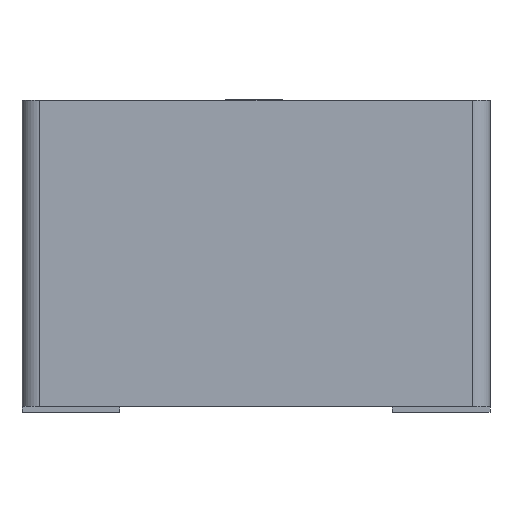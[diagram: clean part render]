
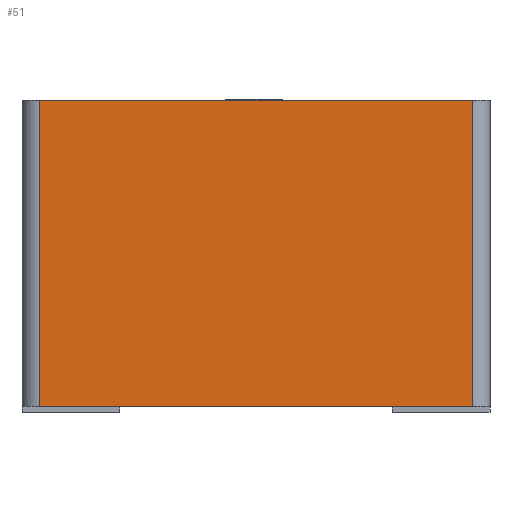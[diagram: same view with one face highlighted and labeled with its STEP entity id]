
A CAD part, left-side view. The second image highlights one B-rep face of the part: STEP entity #51.
In plain terms, the highlighted planar face has unit normal (-1, 0, 0).
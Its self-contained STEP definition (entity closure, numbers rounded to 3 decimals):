
#51 = ADVANCED_FACE('',(#52),#66,.F.);
#52 = FACE_BOUND('',#53,.F.);
#53 = EDGE_LOOP('',(#54,#89,#117,#145));
#54 = ORIENTED_EDGE('',*,*,#55,.F.);
#55 = EDGE_CURVE('',#56,#58,#60,.T.);
#56 = VERTEX_POINT('',#57);
#57 = CARTESIAN_POINT('',(-6.,-5.55,8.));
#58 = VERTEX_POINT('',#59);
#59 = CARTESIAN_POINT('',(-6.,5.55,8.));
#60 = SURFACE_CURVE('',#61,(#65,#77),.PCURVE_S1.);
#61 = LINE('',#62,#63);
#62 = CARTESIAN_POINT('',(-6.,-6.,8.));
#63 = VECTOR('',#64,1.);
#64 = DIRECTION('',(0.,1.,0.));
#65 = PCURVE('',#66,#71);
#66 = PLANE('',#67);
#67 = AXIS2_PLACEMENT_3D('',#68,#69,#70);
#68 = CARTESIAN_POINT('',(-6.,-6.,0.15));
#69 = DIRECTION('',(1.,0.,0.));
#70 = DIRECTION('',(0.,0.,1.));
#71 = DEFINITIONAL_REPRESENTATION('',(#72),#76);
#72 = LINE('',#73,#74);
#73 = CARTESIAN_POINT('',(7.85,0.));
#74 = VECTOR('',#75,1.);
#75 = DIRECTION('',(0.,-1.));
#76 = ( GEOMETRIC_REPRESENTATION_CONTEXT(2) 
PARAMETRIC_REPRESENTATION_CONTEXT() REPRESENTATION_CONTEXT('2D SPACE',''
  ) );
#77 = PCURVE('',#78,#83);
#78 = PLANE('',#79);
#79 = AXIS2_PLACEMENT_3D('',#80,#81,#82);
#80 = CARTESIAN_POINT('',(-6.,-6.,8.));
#81 = DIRECTION('',(0.,0.,1.));
#82 = DIRECTION('',(1.,0.,0.));
#83 = DEFINITIONAL_REPRESENTATION('',(#84),#88);
#84 = LINE('',#85,#86);
#85 = CARTESIAN_POINT('',(0.,0.));
#86 = VECTOR('',#87,1.);
#87 = DIRECTION('',(0.,1.));
#88 = ( GEOMETRIC_REPRESENTATION_CONTEXT(2) 
PARAMETRIC_REPRESENTATION_CONTEXT() REPRESENTATION_CONTEXT('2D SPACE',''
  ) );
#89 = ORIENTED_EDGE('',*,*,#90,.F.);
#90 = EDGE_CURVE('',#91,#56,#93,.T.);
#91 = VERTEX_POINT('',#92);
#92 = CARTESIAN_POINT('',(-6.,-5.55,0.15));
#93 = SURFACE_CURVE('',#94,(#98,#105),.PCURVE_S1.);
#94 = LINE('',#95,#96);
#95 = CARTESIAN_POINT('',(-6.,-5.55,0.15));
#96 = VECTOR('',#97,1.);
#97 = DIRECTION('',(0.,0.,1.));
#98 = PCURVE('',#66,#99);
#99 = DEFINITIONAL_REPRESENTATION('',(#100),#104);
#100 = LINE('',#101,#102);
#101 = CARTESIAN_POINT('',(0.,-0.45));
#102 = VECTOR('',#103,1.);
#103 = DIRECTION('',(1.,0.));
#104 = ( GEOMETRIC_REPRESENTATION_CONTEXT(2) 
PARAMETRIC_REPRESENTATION_CONTEXT() REPRESENTATION_CONTEXT('2D SPACE',''
  ) );
#105 = PCURVE('',#106,#111);
#106 = CYLINDRICAL_SURFACE('',#107,0.45);
#107 = AXIS2_PLACEMENT_3D('',#108,#109,#110);
#108 = CARTESIAN_POINT('',(-5.55,-5.55,0.15));
#109 = DIRECTION('',(0.,0.,1.));
#110 = DIRECTION('',(-1.,-0.,0.));
#111 = DEFINITIONAL_REPRESENTATION('',(#112),#116);
#112 = LINE('',#113,#114);
#113 = CARTESIAN_POINT('',(0.,0.));
#114 = VECTOR('',#115,1.);
#115 = DIRECTION('',(0.,1.));
#116 = ( GEOMETRIC_REPRESENTATION_CONTEXT(2) 
PARAMETRIC_REPRESENTATION_CONTEXT() REPRESENTATION_CONTEXT('2D SPACE',''
  ) );
#117 = ORIENTED_EDGE('',*,*,#118,.T.);
#118 = EDGE_CURVE('',#91,#119,#121,.T.);
#119 = VERTEX_POINT('',#120);
#120 = CARTESIAN_POINT('',(-6.,5.55,0.15));
#121 = SURFACE_CURVE('',#122,(#126,#133),.PCURVE_S1.);
#122 = LINE('',#123,#124);
#123 = CARTESIAN_POINT('',(-6.,-6.,0.15));
#124 = VECTOR('',#125,1.);
#125 = DIRECTION('',(0.,1.,0.));
#126 = PCURVE('',#66,#127);
#127 = DEFINITIONAL_REPRESENTATION('',(#128),#132);
#128 = LINE('',#129,#130);
#129 = CARTESIAN_POINT('',(0.,0.));
#130 = VECTOR('',#131,1.);
#131 = DIRECTION('',(0.,-1.));
#132 = ( GEOMETRIC_REPRESENTATION_CONTEXT(2) 
PARAMETRIC_REPRESENTATION_CONTEXT() REPRESENTATION_CONTEXT('2D SPACE',''
  ) );
#133 = PCURVE('',#134,#139);
#134 = PLANE('',#135);
#135 = AXIS2_PLACEMENT_3D('',#136,#137,#138);
#136 = CARTESIAN_POINT('',(-6.,-6.,0.15));
#137 = DIRECTION('',(0.,0.,1.));
#138 = DIRECTION('',(1.,0.,0.));
#139 = DEFINITIONAL_REPRESENTATION('',(#140),#144);
#140 = LINE('',#141,#142);
#141 = CARTESIAN_POINT('',(0.,0.));
#142 = VECTOR('',#143,1.);
#143 = DIRECTION('',(0.,1.));
#144 = ( GEOMETRIC_REPRESENTATION_CONTEXT(2) 
PARAMETRIC_REPRESENTATION_CONTEXT() REPRESENTATION_CONTEXT('2D SPACE',''
  ) );
#145 = ORIENTED_EDGE('',*,*,#146,.T.);
#146 = EDGE_CURVE('',#119,#58,#147,.T.);
#147 = SURFACE_CURVE('',#148,(#152,#159),.PCURVE_S1.);
#148 = LINE('',#149,#150);
#149 = CARTESIAN_POINT('',(-6.,5.55,0.15));
#150 = VECTOR('',#151,1.);
#151 = DIRECTION('',(0.,0.,1.));
#152 = PCURVE('',#66,#153);
#153 = DEFINITIONAL_REPRESENTATION('',(#154),#158);
#154 = LINE('',#155,#156);
#155 = CARTESIAN_POINT('',(0.,-11.55));
#156 = VECTOR('',#157,1.);
#157 = DIRECTION('',(1.,0.));
#158 = ( GEOMETRIC_REPRESENTATION_CONTEXT(2) 
PARAMETRIC_REPRESENTATION_CONTEXT() REPRESENTATION_CONTEXT('2D SPACE',''
  ) );
#159 = PCURVE('',#160,#165);
#160 = CYLINDRICAL_SURFACE('',#161,0.45);
#161 = AXIS2_PLACEMENT_3D('',#162,#163,#164);
#162 = CARTESIAN_POINT('',(-5.55,5.55,0.15));
#163 = DIRECTION('',(0.,0.,1.));
#164 = DIRECTION('',(-1.,-0.,0.));
#165 = DEFINITIONAL_REPRESENTATION('',(#166),#170);
#166 = LINE('',#167,#168);
#167 = CARTESIAN_POINT('',(-0.,0.));
#168 = VECTOR('',#169,1.);
#169 = DIRECTION('',(-0.,1.));
#170 = ( GEOMETRIC_REPRESENTATION_CONTEXT(2) 
PARAMETRIC_REPRESENTATION_CONTEXT() REPRESENTATION_CONTEXT('2D SPACE',''
  ) );
